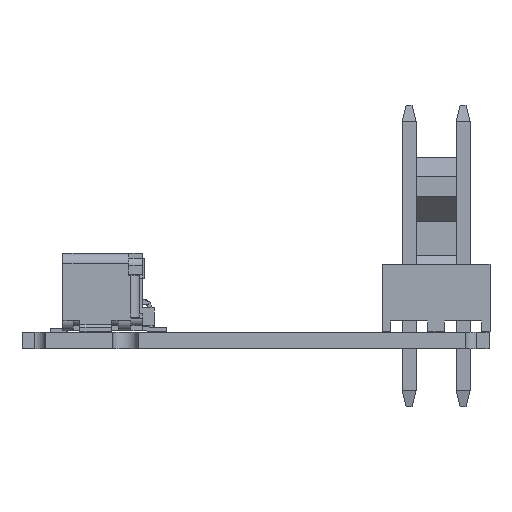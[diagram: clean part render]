
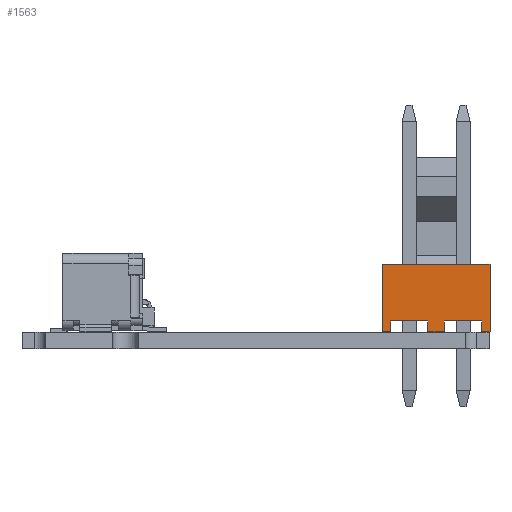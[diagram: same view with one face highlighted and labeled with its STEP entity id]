
A CAD part, front view. The second image highlights one B-rep face of the part: STEP entity #1563.
In plain terms, the highlighted planar face has unit normal (0, -1, 0).
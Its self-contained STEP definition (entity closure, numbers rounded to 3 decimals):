
#1563=ADVANCED_FACE('',(#4354),#3093,.T.);
#3093=PLANE('',#31078);
#4354=FACE_OUTER_BOUND('',#5953,.T.);
#5953=EDGE_LOOP('',(#8077,#8078,#8079,#8080,#8081,#8082,#8083,#8084,#8085,
#8086,#8087,#8088));
#8077=ORIENTED_EDGE('',*,*,#19588,.F.);
#8078=ORIENTED_EDGE('',*,*,#19589,.F.);
#8079=ORIENTED_EDGE('',*,*,#19590,.F.);
#8080=ORIENTED_EDGE('',*,*,#19591,.T.);
#8081=ORIENTED_EDGE('',*,*,#19586,.T.);
#8082=ORIENTED_EDGE('',*,*,#19592,.F.);
#8083=ORIENTED_EDGE('',*,*,#19571,.F.);
#8084=ORIENTED_EDGE('',*,*,#19566,.T.);
#8085=ORIENTED_EDGE('',*,*,#19593,.F.);
#8086=ORIENTED_EDGE('',*,*,#19594,.F.);
#8087=ORIENTED_EDGE('',*,*,#19595,.F.);
#8088=ORIENTED_EDGE('',*,*,#19562,.T.);
#16592=VERTEX_POINT('',#41987);
#16593=VERTEX_POINT('',#41989);
#16596=VERTEX_POINT('',#41996);
#16597=VERTEX_POINT('',#41998);
#16600=VERTEX_POINT('',#42005);
#16612=VERTEX_POINT('',#42035);
#16613=VERTEX_POINT('',#42037);
#16614=VERTEX_POINT('',#42041);
#16615=VERTEX_POINT('',#42043);
#16616=VERTEX_POINT('',#42045);
#16617=VERTEX_POINT('',#42049);
#16618=VERTEX_POINT('',#42051);
#19562=EDGE_CURVE('',#16593,#16592,#23903,.T.);
#19566=EDGE_CURVE('',#16597,#16596,#23907,.T.);
#19571=EDGE_CURVE('',#16597,#16600,#23912,.T.);
#19586=EDGE_CURVE('',#16613,#16612,#23927,.T.);
#19588=EDGE_CURVE('',#16614,#16592,#23929,.T.);
#19589=EDGE_CURVE('',#16615,#16614,#23930,.T.);
#19590=EDGE_CURVE('',#16616,#16615,#23931,.T.);
#19591=EDGE_CURVE('',#16616,#16613,#23932,.T.);
#19592=EDGE_CURVE('',#16600,#16612,#23933,.T.);
#19593=EDGE_CURVE('',#16617,#16596,#23934,.T.);
#19594=EDGE_CURVE('',#16618,#16617,#23935,.T.);
#19595=EDGE_CURVE('',#16593,#16618,#23936,.T.);
#23903=LINE('',#41988,#27478);
#23907=LINE('',#41997,#27482);
#23912=LINE('',#42007,#27487);
#23927=LINE('',#42036,#27502);
#23929=LINE('',#42040,#27504);
#23930=LINE('',#42042,#27505);
#23931=LINE('',#42044,#27506);
#23932=LINE('',#42046,#27507);
#23933=LINE('',#42047,#27508);
#23934=LINE('',#42048,#27509);
#23935=LINE('',#42050,#27510);
#23936=LINE('',#42052,#27511);
#27478=VECTOR('',#33726,1.);
#27482=VECTOR('',#33732,1.);
#27487=VECTOR('',#33739,1.);
#27502=VECTOR('',#33758,1.);
#27504=VECTOR('',#33762,1.);
#27505=VECTOR('',#33763,1.);
#27506=VECTOR('',#33764,1.);
#27507=VECTOR('',#33765,1.);
#27508=VECTOR('',#33766,1.);
#27509=VECTOR('',#33767,1.);
#27510=VECTOR('',#33768,1.);
#27511=VECTOR('',#33769,1.);
#31078=AXIS2_PLACEMENT_3D('',#42053,#33770,#33771);
#33726=DIRECTION('',(1.,0.,0.));
#33732=DIRECTION('',(1.,0.,0.));
#33739=DIRECTION('',(0.,0.,1.));
#33758=DIRECTION('',(0.,0.,1.));
#33762=DIRECTION('',(0.,0.,-1.));
#33763=DIRECTION('',(-1.,0.,0.));
#33764=DIRECTION('',(0.,0.,1.));
#33765=DIRECTION('',(1.,0.,0.));
#33766=DIRECTION('',(1.,0.,0.));
#33767=DIRECTION('',(0.,0.,-1.));
#33768=DIRECTION('',(-1.,0.,0.));
#33769=DIRECTION('',(0.,0.,1.));
#33770=DIRECTION('',(0.,-1.,0.));
#33771=DIRECTION('',(-1.,0.,0.));
#41987=CARTESIAN_POINT('',(-2.105,13.2,0.025));
#41988=CARTESIAN_POINT('',(-5.04,13.2,0.025));
#41989=CARTESIAN_POINT('',(-2.895,13.2,0.025));
#41996=CARTESIAN_POINT('',(-4.645,13.2,0.025));
#41997=CARTESIAN_POINT('',(-5.04,13.2,0.025));
#41998=CARTESIAN_POINT('',(-5.04,13.2,0.025));
#42005=CARTESIAN_POINT('',(-5.04,13.2,3.205));
#42007=CARTESIAN_POINT('',(-5.04,13.2,0.025));
#42035=CARTESIAN_POINT('',(0.04,13.2,3.205));
#42036=CARTESIAN_POINT('',(0.04,13.2,0.025));
#42037=CARTESIAN_POINT('',(0.04,13.2,0.025));
#42040=CARTESIAN_POINT('',(-2.105,13.2,0.025));
#42041=CARTESIAN_POINT('',(-2.105,13.2,0.525));
#42042=CARTESIAN_POINT('',(-0.355,13.2,0.525));
#42043=CARTESIAN_POINT('',(-0.355,13.2,0.525));
#42044=CARTESIAN_POINT('',(-0.355,13.2,0.025));
#42045=CARTESIAN_POINT('',(-0.355,13.2,0.025));
#42046=CARTESIAN_POINT('',(-5.04,13.2,0.025));
#42047=CARTESIAN_POINT('',(-5.04,13.2,3.205));
#42048=CARTESIAN_POINT('',(-4.645,13.2,0.025));
#42049=CARTESIAN_POINT('',(-4.645,13.2,0.525));
#42050=CARTESIAN_POINT('',(-4.645,13.2,0.525));
#42051=CARTESIAN_POINT('',(-2.895,13.2,0.525));
#42052=CARTESIAN_POINT('',(-2.895,13.2,0.025));
#42053=CARTESIAN_POINT('',(-5.04,13.2,0.025));
